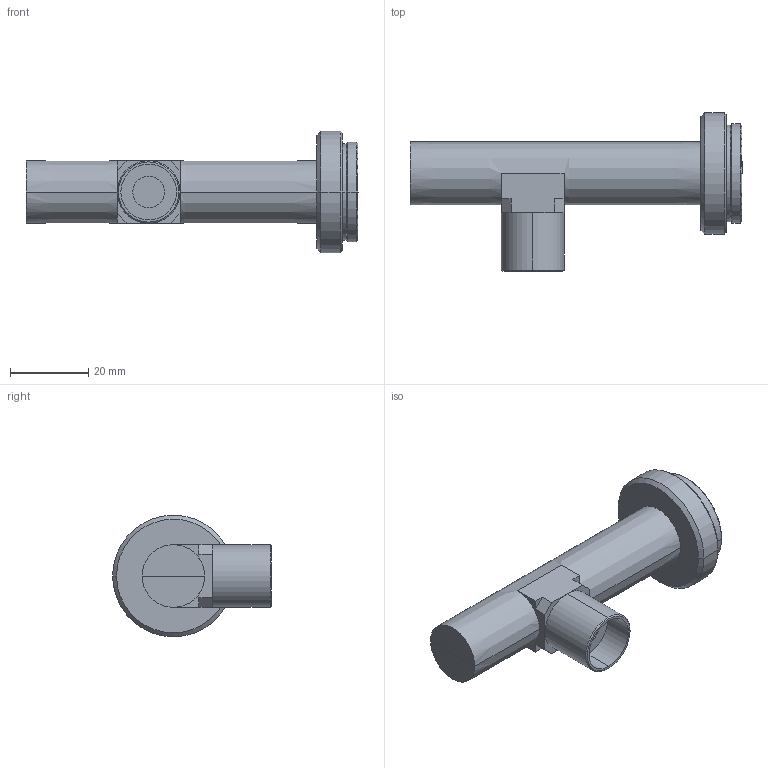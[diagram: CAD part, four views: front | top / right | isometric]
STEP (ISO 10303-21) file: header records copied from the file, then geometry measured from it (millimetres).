
FILE_DESCRIPTION (( 'STEP AP203' ), '1' );
FILE_NAME ('VS-TC6-65CO.STEP', '2018-11-28T02:44:13', ( '' ), ( '' ), 'SwSTEP 2.0', 'SolidWorks 2018', '' );
FILE_SCHEMA (( 'CONFIG_CONTROL_DESIGN' ));
Length unit declared in the file: millimetre
Products named in the file (1): VS-TC6-65CO
Bounding box: 84.7 x 40.5 x 31 mm (x, y, z)
Volume: 24094.9 mm3; surface area: 7669.6 mm2
Topology: 1 solids, 1 shells, 50 faces, 118 edges, 70 vertices
Faces by surface type: plane 22, cone 16, cylinder 12
Entity records: 1481 total; most frequent: DIRECTION 254, CARTESIAN_POINT 250, ORIENTED_EDGE 228, EDGE_CURVE 114, AXIS2_PLACEMENT_3D 92, VECTOR 70, LINE 70, VERTEX_POINT 70
